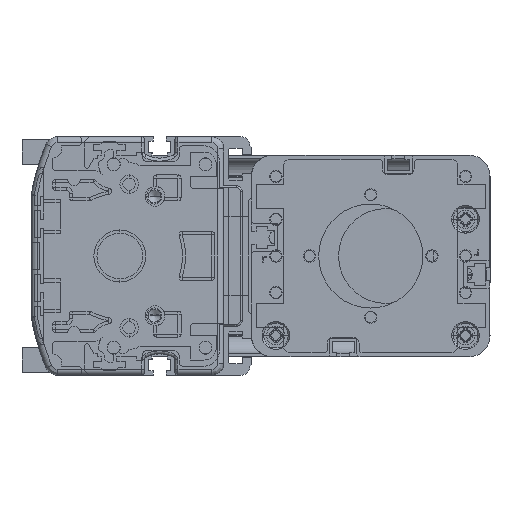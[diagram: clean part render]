
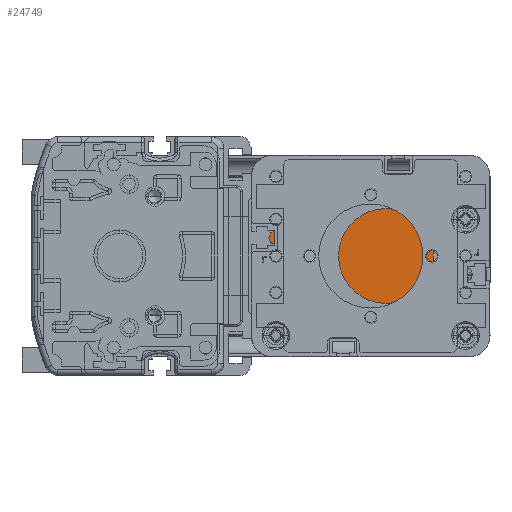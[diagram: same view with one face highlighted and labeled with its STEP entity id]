
A CAD part, left-side view. The second image highlights one B-rep face of the part: STEP entity #24749.
In plain terms, the highlighted spherical face has radius 998.8 mm.
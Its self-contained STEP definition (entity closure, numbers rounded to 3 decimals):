
#6966=CARTESIAN_POINT('',(229.,-67.569,0.));
#6967=DIRECTION('',(0.,1.,0.));
#6968=DIRECTION('',(1.,0.,0.026));
#6969=AXIS2_PLACEMENT_3D('',#6966,#6967,#6968);
#6989=CARTESIAN_POINT('',(229.,-67.569,0.));
#6990=DIRECTION('',(0.,1.,0.));
#6991=DIRECTION('',(1.,0.,-0.007));
#6992=AXIS2_PLACEMENT_3D('',#6989,#6990,#6991);
#7001=CARTESIAN_POINT('',(1225.688,-67.569,
-6.777));
#7002=CARTESIAN_POINT('',(1225.741,-66.776,
-6.493));
#7003=CARTESIAN_POINT('',(1225.841,-65.292,
-5.643));
#7004=CARTESIAN_POINT('',(1225.952,-63.641,
-3.684));
#7005=CARTESIAN_POINT('',(1226.011,-62.764,
-1.279));
#7006=CARTESIAN_POINT('',(1226.011,-62.764,1.28));
#7007=CARTESIAN_POINT('',(1225.952,-63.642,3.684));
#7008=CARTESIAN_POINT('',(1225.841,-65.293,5.644));
#7009=CARTESIAN_POINT('',(1225.741,-66.776,6.493));
#7010=CARTESIAN_POINT('',(1225.688,-67.569,6.777));
#7026=CARTESIAN_POINT('',(1225.688,61.569,6.777));
#7027=CARTESIAN_POINT('',(1225.741,60.779,6.494));
#7028=CARTESIAN_POINT('',(1225.84,59.299,5.648));
#7029=CARTESIAN_POINT('',(1225.952,57.642,3.687));
#7030=CARTESIAN_POINT('',(1226.011,56.764,1.28));
#7031=CARTESIAN_POINT('',(1226.011,56.764,-1.281));
#7032=CARTESIAN_POINT('',(1225.952,57.643,-3.688));
#7033=CARTESIAN_POINT('',(1225.84,59.3,-5.649));
#7034=CARTESIAN_POINT('',(1225.741,60.78,-6.494));
#7035=CARTESIAN_POINT('',(1225.688,61.569,-6.777));
#7037=CARTESIAN_POINT('',(229.,-3.,-26.152));
#7038=DIRECTION('',(0.,0.,1.));
#7039=DIRECTION('',(0.998,-0.065,0.));
#7040=AXIS2_PLACEMENT_3D('',#7037,#7038,#7039);
#7073=CARTESIAN_POINT('',(229.,61.569,0.));
#7074=DIRECTION('',(0.,-1.,0.));
#7075=DIRECTION('',(1.,0.,-0.026));
#7076=AXIS2_PLACEMENT_3D('',#7073,#7074,#7075);
#7087=CARTESIAN_POINT('',(229.,61.569,0.));
#7088=DIRECTION('',(0.,-1.,0.));
#7089=DIRECTION('',(1.,0.,0.007));
#7090=AXIS2_PLACEMENT_3D('',#7087,#7088,#7089);
#7167=CARTESIAN_POINT('',(229.,-3.,26.152));
#7168=DIRECTION('',(0.,0.,-1.));
#7169=DIRECTION('',(0.998,0.065,0.));
#7170=AXIS2_PLACEMENT_3D('',#7167,#7168,#7169);
#13166=VERTEX_POINT('',#7001);
#13167=VERTEX_POINT('',#7010);
#13168=CARTESIAN_POINT('',(1225.368,-67.569,
26.152));
#13169=VERTEX_POINT('',#13168);
#13170=CARTESIAN_POINT('',(1225.368,61.569,26.152));
#13171=VERTEX_POINT('',#13170);
#13172=CARTESIAN_POINT('',(1225.688,61.569,6.777));
#13173=VERTEX_POINT('',#13172);
#13174=VERTEX_POINT('',#7035);
#13175=CARTESIAN_POINT('',(1225.368,61.569,
-26.152));
#13176=VERTEX_POINT('',#13175);
#13177=CARTESIAN_POINT('',(1225.368,-67.569,
-26.152));
#13178=VERTEX_POINT('',#13177);
#24729=CARTESIAN_POINT('',(229.,-3.,0.));
#24730=DIRECTION('',(0.,-1.,0.));
#24731=DIRECTION('',(1.,0.,0.));
#24732=AXIS2_PLACEMENT_3D('',#24729,#24730,#24731);
#24733=SPHERICAL_SURFACE('',#24732,998.8);
#24734=ORIENTED_EDGE('',*,*,#24720,.F.);
#24735=ORIENTED_EDGE('',*,*,#24706,.T.);
#24737=ORIENTED_EDGE('',*,*,#24736,.T.);
#24739=ORIENTED_EDGE('',*,*,#24738,.T.);
#24741=ORIENTED_EDGE('',*,*,#24740,.F.);
#24743=ORIENTED_EDGE('',*,*,#24742,.T.);
#24745=ORIENTED_EDGE('',*,*,#24744,.T.);
#24746=ORIENTED_EDGE('',*,*,#24700,.T.);
#24747=EDGE_LOOP('',(#24734,#24735,#24737,#24739,#24741,#24743,#24745,#24746));
#24748=FACE_OUTER_BOUND('',#24747,.F.);
#24749=ADVANCED_FACE('',(#24748),#24733,.F.);
#6970=CIRCLE('',#6969,996.711);
#6993=CIRCLE('',#6992,996.711);
#7011=B_SPLINE_CURVE_WITH_KNOTS('',3,(#7001,#7002,#7003,#7004,#7005,#7006,#7007,
#7008,#7009,#7010),.UNSPECIFIED.,.F.,.F.,(4,1,1,1,1,1,1,4),(0.,
0.143,0.286,0.429,0.571,
0.714,0.857,1.),.UNSPECIFIED.);
#7036=B_SPLINE_CURVE_WITH_KNOTS('',3,(#7026,#7027,#7028,#7029,#7030,#7031,#7032,
#7033,#7034,#7035),.UNSPECIFIED.,.F.,.F.,(4,1,1,1,1,1,1,4),(0.,
0.143,0.286,0.429,0.571,
0.714,0.857,1.),.UNSPECIFIED.);
#7041=CIRCLE('',#7040,998.458);
#7077=CIRCLE('',#7076,996.711);
#7091=CIRCLE('',#7090,996.711);
#7171=CIRCLE('',#7170,998.458);
#24700=EDGE_CURVE('',#13169,#13167,#6970,.T.);
#24706=EDGE_CURVE('',#13166,#13178,#6993,.T.);
#24720=EDGE_CURVE('',#13166,#13167,#7011,.T.);
#24736=EDGE_CURVE('',#13178,#13176,#7041,.T.);
#24738=EDGE_CURVE('',#13176,#13174,#7077,.T.);
#24740=EDGE_CURVE('',#13173,#13174,#7036,.T.);
#24742=EDGE_CURVE('',#13173,#13171,#7091,.T.);
#24744=EDGE_CURVE('',#13171,#13169,#7171,.T.);
